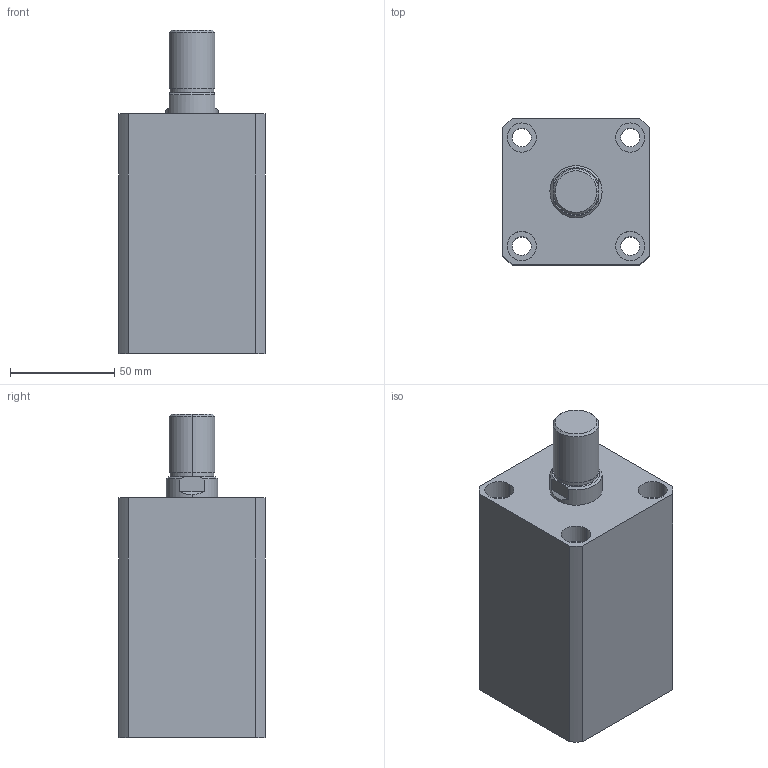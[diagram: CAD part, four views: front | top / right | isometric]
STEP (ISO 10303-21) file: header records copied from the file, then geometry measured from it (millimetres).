
FILE_DESCRIPTION (( 'STEP AP203' ), '1' );
FILE_NAME ('HTB-SDMB40-60W.STEP', '2019-10-09T01:57:55', ( '微软用户' ), ( '微软中国' ), 'SwSTEP 2.0', 'SolidWorks 2012', '' );
FILE_SCHEMA (( 'CONFIG_CONTROL_DESIGN' ));
Length unit declared in the file: millimetre
Products named in the file (3): HTB-SDMB40-60W; HTB-SDMB40-60W活塞杆; HTB-SDMB40-60掛极
Assembly tree (2 placements, depth 2):
  HTB-SDMB40-60W
    HTB-SDMB40-60掛极
    HTB-SDMB40-60W活塞杆
Bounding box: 70 x 70 x 155 mm (x, y, z)
Volume: 492881.6 mm3; surface area: 82685.1 mm2
Topology: 2 solids, 2 shells, 141 faces, 337 edges, 222 vertices
Faces by surface type: plane 67, cylinder 48, bspline 16, torus 6, cone 4
Entity records: 5180 total; most frequent: CARTESIAN_POINT 1597, ORIENTED_EDGE 674, DIRECTION 669, EDGE_CURVE 337, AXIS2_PLACEMENT_3D 242, VERTEX_POINT 222, VECTOR 185, LINE 185
